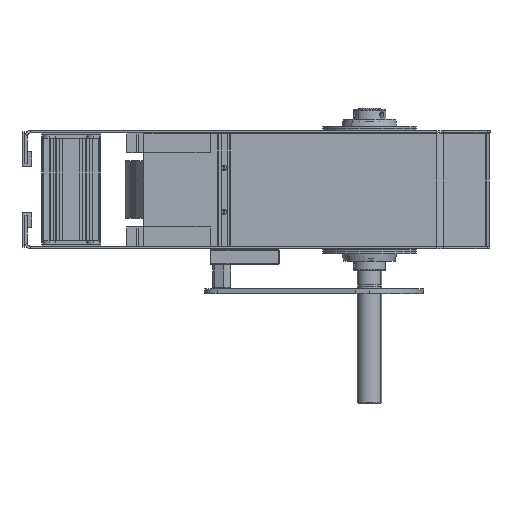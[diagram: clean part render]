
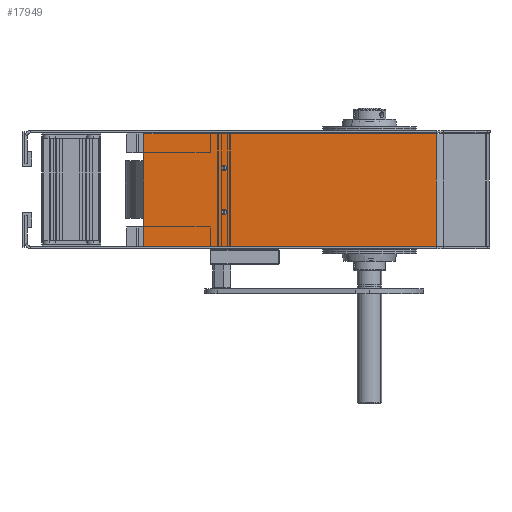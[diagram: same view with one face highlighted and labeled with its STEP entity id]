
A CAD part, left-side view. The second image highlights one B-rep face of the part: STEP entity #17949.
In plain terms, the highlighted planar face has unit normal (-1, 0, 0).
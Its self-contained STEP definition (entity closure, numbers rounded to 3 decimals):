
#887 = DIRECTION ( 'NONE',  ( 1., 0., 0. ) ) ;
#893 = CARTESIAN_POINT ( 'NONE',  ( -287.877, -207.034, -116.5 ) ) ;
#895 = PLANE ( 'NONE',  #13767 ) ;
#897 = DIRECTION ( 'NONE',  ( 0., 0., -1. ) ) ;
#13767 = AXIS2_PLACEMENT_3D ( 'NONE', #893, #887, #897 ) ;
#17949 = ADVANCED_FACE ( 'NONE', ( #31685, #31688, #31686 ), #895, .F. ) ;
#22001 = EDGE_CURVE ( 'NONE', #54195, #54196, #42497, .T. ) ;
#22009 = EDGE_CURVE ( 'NONE', #54200, #54202, #42503, .T. ) ;
#22099 = EDGE_CURVE ( 'NONE', #54251, #54253, #42575, .T. ) ;
#22115 = EDGE_CURVE ( 'NONE', #54196, #54195, #42587, .T. ) ;
#22117 = EDGE_CURVE ( 'NONE', #54202, #54200, #42592, .T. ) ;
#22119 = EDGE_CURVE ( 'NONE', #54263, #54259, #42593, .T. ) ;
#22121 = EDGE_CURVE ( 'NONE', #54253, #54259, #42590, .T. ) ;
#22123 = EDGE_CURVE ( 'NONE', #54251, #54263, #42596, .T. ) ;
#29029 = AXIS2_PLACEMENT_3D ( 'NONE', #44190, #44191, #44192 ) ;
#29031 = AXIS2_PLACEMENT_3D ( 'NONE', #44201, #44202, #44203 ) ;
#29048 = AXIS2_PLACEMENT_3D ( 'NONE', #44321, #44322, #44323 ) ;
#29049 = AXIS2_PLACEMENT_3D ( 'NONE', #44325, #44326, #44327 ) ;
#31685 = FACE_BOUND ( 'NONE', #36927, .T. ) ;
#31686 = FACE_OUTER_BOUND ( 'NONE', #36933, .T. ) ;
#31688 = FACE_BOUND ( 'NONE', #36820, .T. ) ;
#36820 = EDGE_LOOP ( 'NONE', ( #41417, #41419 ) ) ;
#36927 = EDGE_LOOP ( 'NONE', ( #41412, #41414 ) ) ;
#36933 = EDGE_LOOP ( 'NONE', ( #41422, #41426, #41428, #41430 ) ) ;
#41412 = ORIENTED_EDGE ( 'NONE', *, *, #22115, .F. ) ;
#41414 = ORIENTED_EDGE ( 'NONE', *, *, #22001, .F. ) ;
#41417 = ORIENTED_EDGE ( 'NONE', *, *, #22117, .F. ) ;
#41419 = ORIENTED_EDGE ( 'NONE', *, *, #22009, .F. ) ;
#41422 = ORIENTED_EDGE ( 'NONE', *, *, #22119, .T. ) ;
#41426 = ORIENTED_EDGE ( 'NONE', *, *, #22121, .F. ) ;
#41428 = ORIENTED_EDGE ( 'NONE', *, *, #22099, .F. ) ;
#41430 = ORIENTED_EDGE ( 'NONE', *, *, #22123, .T. ) ;
#42497 = CIRCLE ( 'NONE', #29029, 2.75 ) ;
#42503 = CIRCLE ( 'NONE', #29031, 2.75 ) ;
#42575 = LINE ( 'NONE', #44298, #42579 ) ;
#42579 = VECTOR ( 'NONE', #44303, 1000. ) ;
#42587 = CIRCLE ( 'NONE', #29048, 2.75 ) ;
#42590 = LINE ( 'NONE', #44324, #42597 ) ;
#42592 = CIRCLE ( 'NONE', #29049, 2.75 ) ;
#42593 = LINE ( 'NONE', #44319, #42595 ) ;
#42595 = VECTOR ( 'NONE', #44320, 1000. ) ;
#42596 = LINE ( 'NONE', #44329, #42599 ) ;
#42597 = VECTOR ( 'NONE', #44328, 1000. ) ;
#42599 = VECTOR ( 'NONE', #44330, 1000. ) ;
#44190 = CARTESIAN_POINT ( 'NONE',  ( -287.877, 12.466, -81.75 ) ) ;
#44191 = DIRECTION ( 'NONE',  ( -1., 0., 0. ) ) ;
#44192 = DIRECTION ( 'NONE',  ( 0., 0., 1. ) ) ;
#44201 = CARTESIAN_POINT ( 'NONE',  ( -287.877, 12.466, -36.75 ) ) ;
#44202 = DIRECTION ( 'NONE',  ( -1., 0., 0. ) ) ;
#44203 = DIRECTION ( 'NONE',  ( 0., 0., 1. ) ) ;
#44298 = CARTESIAN_POINT ( 'NONE',  ( -287.877, -207.034, -116.5 ) ) ;
#44303 = DIRECTION ( 'NONE',  ( 0., 1., 0. ) ) ;
#44319 = CARTESIAN_POINT ( 'NONE',  ( -287.877, -207.034, -2. ) ) ;
#44320 = DIRECTION ( 'NONE',  ( 0., 1., 0. ) ) ;
#44321 = CARTESIAN_POINT ( 'NONE',  ( -287.877, 12.466, -81.75 ) ) ;
#44322 = DIRECTION ( 'NONE',  ( -1., 0., 0. ) ) ;
#44323 = DIRECTION ( 'NONE',  ( 0., 0., 1. ) ) ;
#44324 = CARTESIAN_POINT ( 'NONE',  ( -287.877, 93.966, -116.5 ) ) ;
#44325 = CARTESIAN_POINT ( 'NONE',  ( -287.877, 12.466, -36.75 ) ) ;
#44326 = DIRECTION ( 'NONE',  ( -1., 0., 0. ) ) ;
#44327 = DIRECTION ( 'NONE',  ( 0., 0., 1. ) ) ;
#44328 = DIRECTION ( 'NONE',  ( 0., 0., 1. ) ) ;
#44329 = CARTESIAN_POINT ( 'NONE',  ( -287.877, -202.892, -116.5 ) ) ;
#44330 = DIRECTION ( 'NONE',  ( 0., 0., 1. ) ) ;
#54195 = VERTEX_POINT ( 'NONE', #56263 ) ;
#54196 = VERTEX_POINT ( 'NONE', #56264 ) ;
#54200 = VERTEX_POINT ( 'NONE', #56267 ) ;
#54202 = VERTEX_POINT ( 'NONE', #56268 ) ;
#54251 = VERTEX_POINT ( 'NONE', #56296 ) ;
#54253 = VERTEX_POINT ( 'NONE', #56297 ) ;
#54259 = VERTEX_POINT ( 'NONE', #56300 ) ;
#54263 = VERTEX_POINT ( 'NONE', #56302 ) ;
#56263 = CARTESIAN_POINT ( 'NONE',  ( -287.877, 12.466, -84.5 ) ) ;
#56264 = CARTESIAN_POINT ( 'NONE',  ( -287.877, 12.466, -79. ) ) ;
#56267 = CARTESIAN_POINT ( 'NONE',  ( -287.877, 12.466, -39.5 ) ) ;
#56268 = CARTESIAN_POINT ( 'NONE',  ( -287.877, 12.466, -34. ) ) ;
#56296 = CARTESIAN_POINT ( 'NONE',  ( -287.877, -202.892, -116.5 ) ) ;
#56297 = CARTESIAN_POINT ( 'NONE',  ( -287.877, 93.966, -116.5 ) ) ;
#56300 = CARTESIAN_POINT ( 'NONE',  ( -287.877, 93.966, -2. ) ) ;
#56302 = CARTESIAN_POINT ( 'NONE',  ( -287.877, -202.892, -2. ) ) ;
